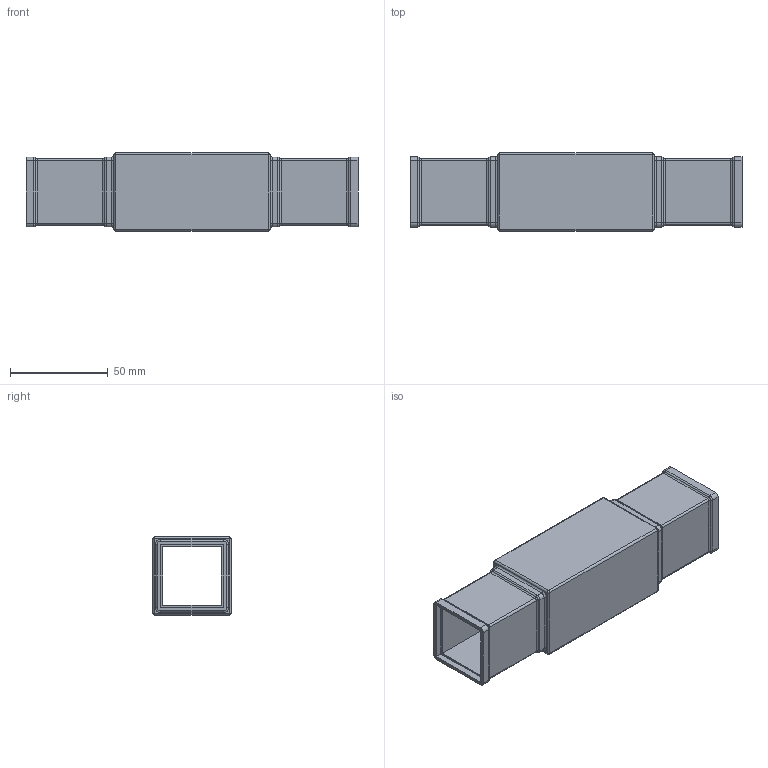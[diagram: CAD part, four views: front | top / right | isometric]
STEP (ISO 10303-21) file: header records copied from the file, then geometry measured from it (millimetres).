
FILE_DESCRIPTION (( 'STEP AP214' ), '1' );
FILE_NAME ('115.301.206.STEP', '2023-05-16T07:44:28', ( '' ), ( '' ), 'SwSTEP 2.0', 'SolidWorks 2021', '' );
FILE_SCHEMA (( 'AUTOMOTIVE_DESIGN' ));
Length unit declared in the file: millimetre
Products named in the file (1): 115.301.206
Bounding box: 170 x 40 x 40 mm (x, y, z)
Volume: 44683.3 mm3; surface area: 49502.6 mm2
Topology: 1 solids, 1 shells, 190 faces, 412 edges, 224 vertices
Faces by surface type: cylinder 76, plane 66, bspline 48
Entity records: 5554 total; most frequent: CARTESIAN_POINT 1563, DIRECTION 850, ORIENTED_EDGE 808, EDGE_CURVE 404, AXIS2_PLACEMENT_3D 311, VECTOR 228, LINE 228, VERTEX_POINT 224
